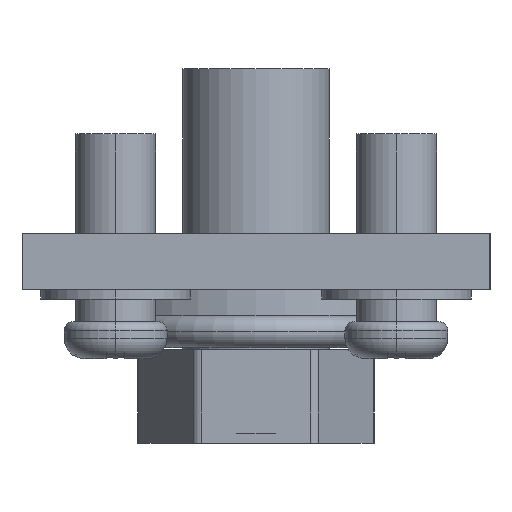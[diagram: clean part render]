
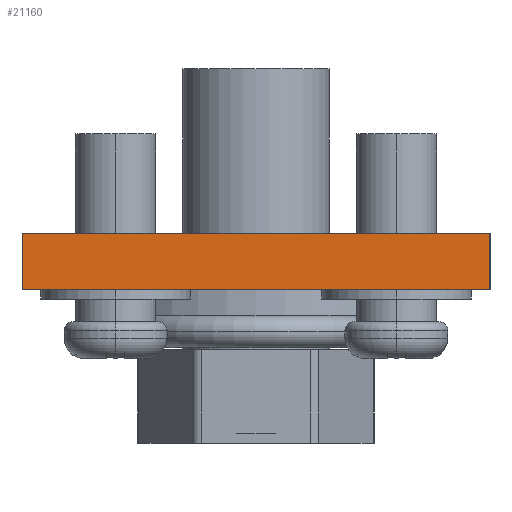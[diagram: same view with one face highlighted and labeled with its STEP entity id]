
A CAD part, left-side view. The second image highlights one B-rep face of the part: STEP entity #21160.
In plain terms, the highlighted planar face has unit normal (-1, 0, 0).
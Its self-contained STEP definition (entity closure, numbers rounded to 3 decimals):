
#17310=CARTESIAN_POINT('',(83.512,41.46,0.));
#17320=DIRECTION('',(0.,1.,0.));
#17330=VECTOR('',#17320,1.);
#17340=LINE('',#17310,#17330);
#17350=CARTESIAN_POINT('',(83.512,41.46,0.));
#17360=VERTEX_POINT('',#17350);
#17370=CARTESIAN_POINT('',(83.512,66.46,0.));
#17380=VERTEX_POINT('',#17370);
#17390=EDGE_CURVE('',#17360,#17380,#17340,.T.);
#20380=CARTESIAN_POINT('',(83.512,66.46,3.));
#20390=VERTEX_POINT('',#20380);
#20420=CARTESIAN_POINT('',(83.512,66.46,0.));
#20430=DIRECTION('',(0.,0.,1.));
#20440=VECTOR('',#20430,1.);
#20450=LINE('',#20420,#20440);
#20460=EDGE_CURVE('',#17380,#20390,#20450,.T.);
#20810=CARTESIAN_POINT('',(83.512,41.46,0.));
#20820=DIRECTION('',(0.,0.,1.));
#20830=VECTOR('',#20820,1.);
#20840=LINE('',#20810,#20830);
#20850=CARTESIAN_POINT('',(83.512,41.46,3.));
#20860=VERTEX_POINT('',#20850);
#20870=EDGE_CURVE('',#17360,#20860,#20840,.T.);
#21000=CARTESIAN_POINT('',(83.512,41.46,0.));
#21010=DIRECTION('',(-1.,0.,0.));
#21020=DIRECTION('',(0.,1.,0.));
#21030=AXIS2_PLACEMENT_3D('',#21000,#21010,#21020);
#21040=PLANE('',#21030);
#21050=ORIENTED_EDGE('',*,*,#20460,.F.);
#21060=CARTESIAN_POINT('',(83.512,41.46,3.));
#21070=DIRECTION('',(0.,1.,0.));
#21080=VECTOR('',#21070,1.);
#21090=LINE('',#21060,#21080);
#21100=EDGE_CURVE('',#20860,#20390,#21090,.T.);
#21110=ORIENTED_EDGE('',*,*,#21100,.T.);
#21120=ORIENTED_EDGE('',*,*,#20870,.T.);
#21130=ORIENTED_EDGE('',*,*,#17390,.F.);
#21140=EDGE_LOOP('',(#21130,#21120,#21110,#21050));
#21150=FACE_OUTER_BOUND('',#21140,.T.);
#21160=ADVANCED_FACE('',(#21150),#21040,.T.);
